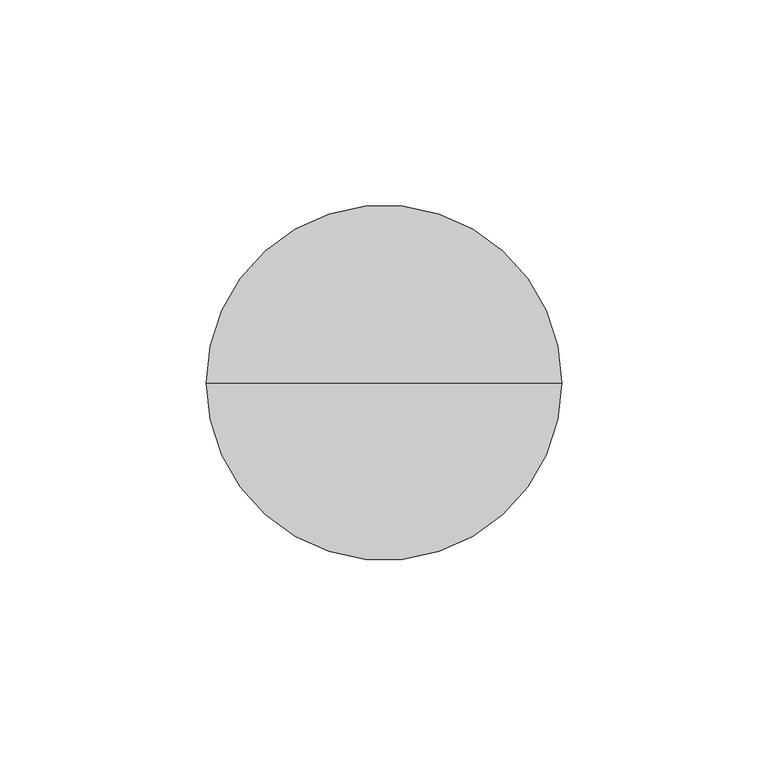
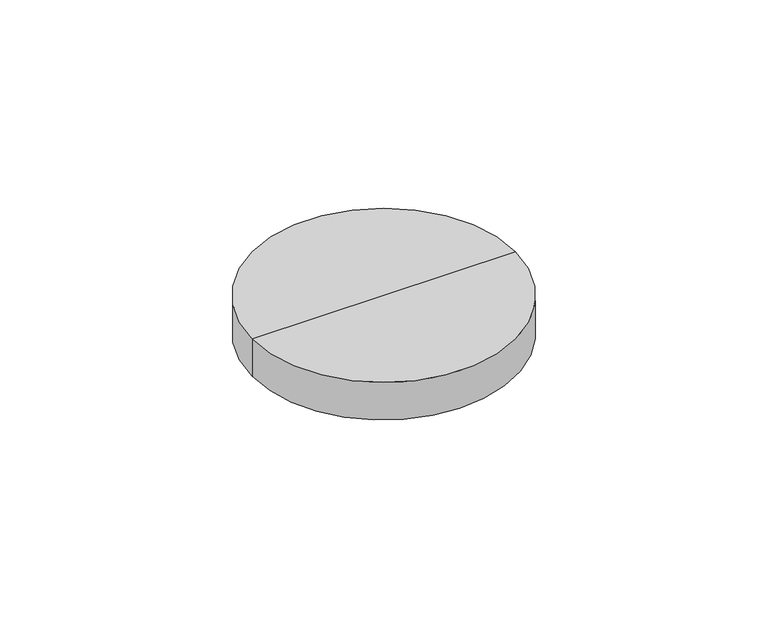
"""IFC4 building model written with IfcOpenShell, lengths in millimetres: alarm geometry, АЗДПИ АТИ_база извещателя_тип модель на грани : АЗДПИ АТИ_база извещателя_тип модель на грани."""

from ifc_helpers import new_model, si_unit, frame, origin, place, context, project, spatial, circle_curve, source, transform, mapped, element, save
from ifc_brep_helpers import plane_surface, cylinder_surface, advanced_brep


def alarm_fe193bee(model_context):
    return source(origin(), model_context, "Body", "AdvancedBrep", [
        advanced_brep(
        [(0.0, 0.0, 13.0), (43.0, 0.0, 13.0), (-43.0, 0.0, 13.0), (-43.0, 0.0, 0.0), (43.0, 0.0, 0.0), (0.0, 0.0, 0.0)],
        [
            (0, 1),
            (1, 2, circle_curve(frame((0.0, 0.0, 13.0), z_axis=(0.0, 0.0, 1.0), x_axis=(1.0, 0.0, 0.0)), 43.0)),
            (2, 0),
            (2, 1, circle_curve(frame((0.0, 0.0, 13.0), z_axis=(0.0, 0.0, 1.0), x_axis=(1.0, 0.0, 0.0)), 43.0)),
            (3, 4, circle_curve(frame((0.0, 0.0, 0.0), z_axis=(0.0, 0.0, -1.0), x_axis=(1.0, 0.0, 0.0)), 43.0)),
            (4, 5),
            (5, 3),
            (4, 3, circle_curve(frame((0.0, 0.0, 0.0), z_axis=(0.0, 0.0, -1.0), x_axis=(1.0, 0.0, 0.0)), 43.0)),
            (1, 4),
            (3, 2),
        ],
        [
            plane_surface(frame((0.0, 0.0, 13.0), z_axis=(0.0, 0.0, 1.0), x_axis=(1.0, 0.0, 0.0))),
            plane_surface(frame((0.0, 0.0, 0.0), z_axis=(0.0, 0.0, -1.0), x_axis=(1.0, 0.0, 0.0))),
            cylinder_surface(frame((0.0, 0.0, 46.0376067), z_axis=(0.0, 0.0, 1.0), x_axis=(1.0, 0.0, 0.0)), 43.0),
        ],
        [
            (0, [[1, 2, 3]]),
            (0, [[-3, 4, -1]]),
            (1, [[5, 6, 7]]),
            (1, [[8, -7, -6]]),
            (2, [[-2, 9, -5, 10]]),
            (2, [[-4, -10, -8, -9]]),
        ],
    ),
    ])


if __name__ == "__main__":
    model = new_model("IFC4")
    model_context = context("Model", 3, world=origin())
    ifc_project = project(units=[si_unit("LENGTHUNIT", "METRE", prefix="MILLI")], contexts=[model_context])
    site = spatial("IfcSite", under=ifc_project)
    building = spatial("IfcBuilding", under=site)
    placement = place(None, origin())
    alarm_shape = alarm_fe193bee(model_context)
    element("IfcAlarm", 1, ObjectType="АЗДПИ АТИ_база извещателя_тип модель на грани : АЗДПИ АТИ_база извещателя_тип модель на грани", at=placement, inside=building, context=model_context, shape_type="MappedRepresentation", body=[
        mapped(alarm_shape, transform((0.0, 0.0, 0.0), x_axis=(1.0, 0.0, 0.0), y_axis=(0.0, 1.0, 0.0), z_axis=(0.0, 0.0, 1.0))),
    ])
    save(model, "model.ifc")
